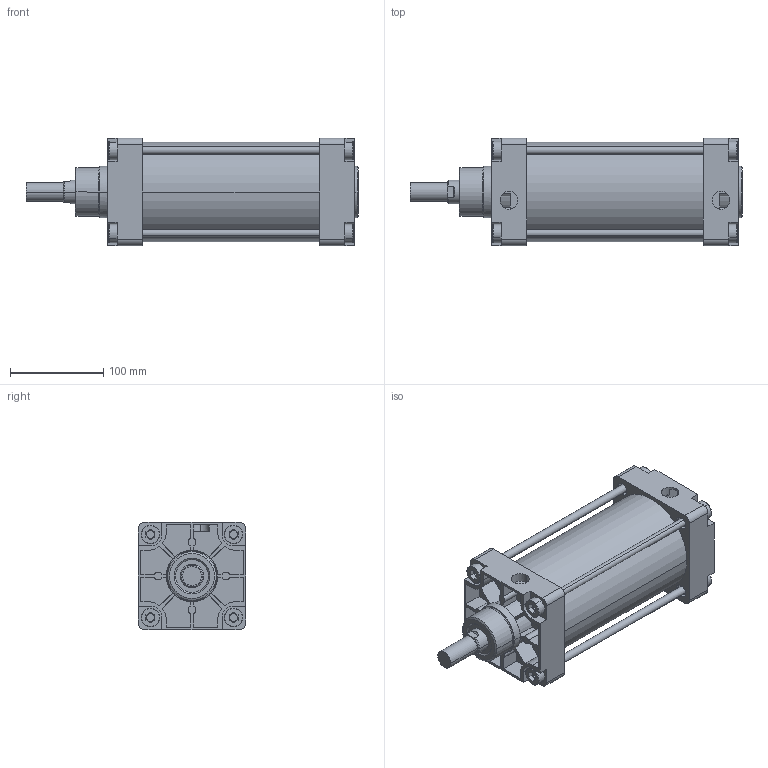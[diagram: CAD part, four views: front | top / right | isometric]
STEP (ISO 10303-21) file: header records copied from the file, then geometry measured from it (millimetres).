
FILE_DESCRIPTION(('CATIA V5 STEP Exchange'),'2;1');
FILE_NAME('D:\stp file for catalog\PNC\100\PNC 100-25-125.stp','2015-10-17T07:44:11+00:00',('none'),('none'),'Version 5-6 Release 2012','CATIA V5 STEP AP203','none');
FILE_SCHEMA(('CONFIG_CONTROL_DESIGN'));
Length unit declared in the file: millimetre
Products named in the file (1): PNC 100-25-125-00
Assembly tree (2 placements, depth 2):
  PNC 100-25-125-00
    #58
    #14124
Bounding box: 355.5 x 115 x 115 mm (x, y, z)
Volume: 1599303.3 mm3; surface area: 349042.1 mm2
Topology: 6 solids, 6 shells, 534 faces, 1388 edges, 914 vertices
Faces by surface type: plane 336, cylinder 166, torus 26, cone 6
Entity records: 14648 total; most frequent: ORIENTED_EDGE 2776, CARTESIAN_POINT 2587, DIRECTION 1886, EDGE_CURVE 1388, VECTOR 922, LINE 922, VERTEX_POINT 914, AXIS2_PLACEMENT_3D 711
